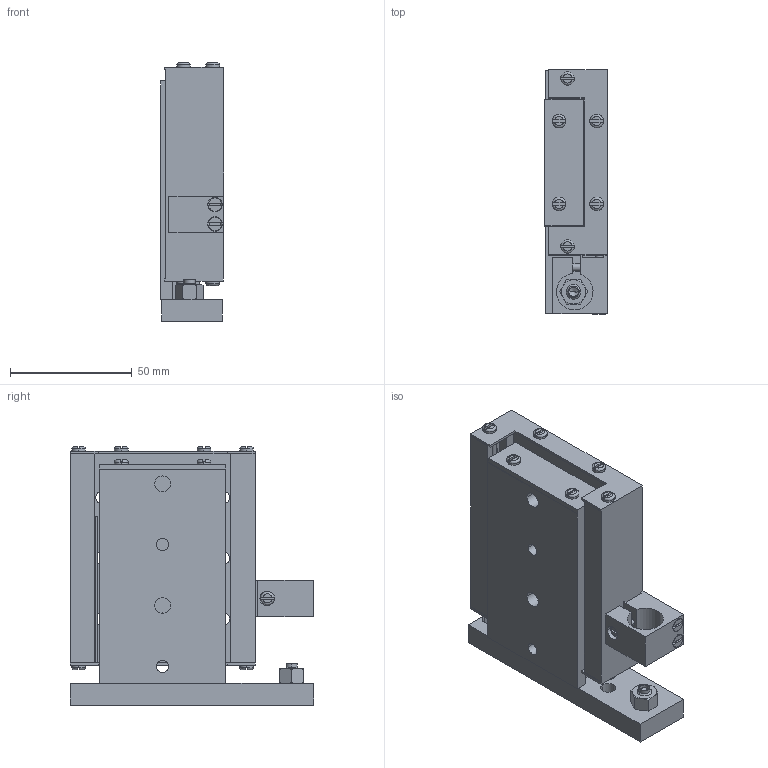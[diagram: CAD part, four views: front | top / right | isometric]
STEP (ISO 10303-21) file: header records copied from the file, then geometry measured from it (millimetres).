
FILE_DESCRIPTION((''),'2;1');
FILE_NAME('860-0020_SW0001','2014-08-01T',('Julija'),(''),'PRO/ENGINEER BY PARAMETRIC TECHNOLOGY CORPORATION, 2014090','PRO/ENGINEER BY PARAMETRIC TECHNOLOGY CORPORATION, 2014090','');
FILE_SCHEMA(('CONFIG_CONTROL_DESIGN'));
Length unit declared in the file: inch
Products named in the file (1): 860-0020_SW0001
Bounding box: 26 x 100.15 x 106.23 mm (x, y, z)
Volume: 166904.1 mm3; surface area: 60508.6 mm2
Topology: 3 solids, 3 shells, 508 faces, 1360 edges, 852 vertices
Faces by surface type: plane 217, cylinder 157, cone 102, torus 32
Entity records: 17319 total; most frequent: CARTESIAN_POINT 4342, DIRECTION 2787, ORIENTED_EDGE 2676, EDGE_CURVE 1338, AXIS2_PLACEMENT_3D 1065, VERTEX_POINT 852, VECTOR 657, LINE 657
